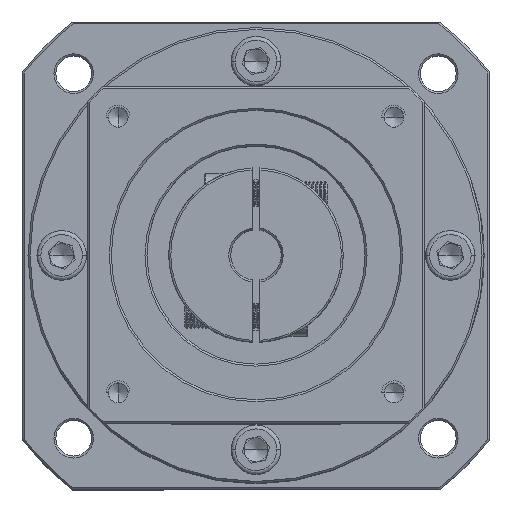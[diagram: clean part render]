
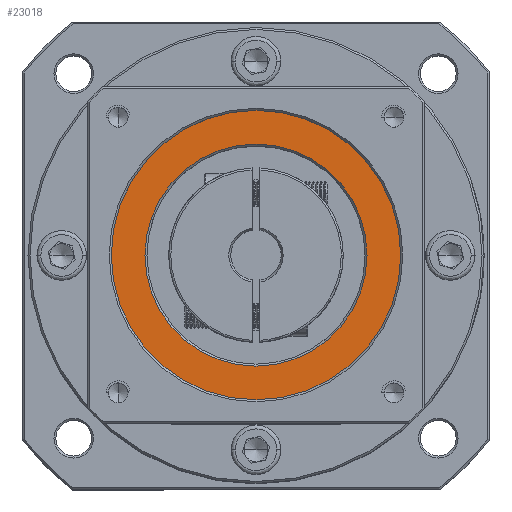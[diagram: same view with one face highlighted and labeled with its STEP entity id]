
A CAD part, top view. The second image highlights one B-rep face of the part: STEP entity #23018.
In plain terms, the highlighted planar face has unit normal (0, 0, 1).
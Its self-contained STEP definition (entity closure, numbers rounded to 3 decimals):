
#1533 = CARTESIAN_POINT ( 'NONE',  ( 45.074, -0.785, 102.5 ) ) ;
#10303 = DIRECTION ( 'NONE',  ( 1., 0., 0. ) ) ;
#11799 = ORIENTED_EDGE ( 'NONE', *, *, #47493, .T. ) ;
#11902 = CARTESIAN_POINT ( 'NONE',  ( 45.074, -0.785, 102.5 ) ) ;
#14275 = VERTEX_POINT ( 'NONE', #58830 ) ;
#16294 = ORIENTED_EDGE ( 'NONE', *, *, #31106, .T. ) ;
#17744 = DIRECTION ( 'NONE',  ( 0., 0., 1. ) ) ;
#20044 = AXIS2_PLACEMENT_3D ( 'NONE', #11902, #73139, #20720 ) ;
#20720 = DIRECTION ( 'NONE',  ( 1., 0., 0. ) ) ;
#23018 = ADVANCED_FACE ( 'NONE', ( #84423, #113195 ), #81623, .T. ) ;
#24253 = EDGE_LOOP ( 'NONE', ( #49301, #11799 ) ) ;
#25683 = CARTESIAN_POINT ( 'NONE',  ( 17.074, -0.785, 102.5 ) ) ;
#26321 = DIRECTION ( 'NONE',  ( 0., 0., -1. ) ) ;
#27660 = VERTEX_POINT ( 'NONE', #32078 ) ;
#31106 = EDGE_CURVE ( 'NONE', #27660, #45386, #80367, .T. ) ;
#32078 = CARTESIAN_POINT ( 'NONE',  ( 81.574, -0.785, 102.5 ) ) ;
#32741 = CARTESIAN_POINT ( 'NONE',  ( 8.574, -0.785, 102.5 ) ) ;
#38159 = DIRECTION ( 'NONE',  ( 0., 0., 1. ) ) ;
#45386 = VERTEX_POINT ( 'NONE', #32741 ) ;
#47493 = EDGE_CURVE ( 'NONE', #54776, #14275, #52344, .T. ) ;
#49301 = ORIENTED_EDGE ( 'NONE', *, *, #72335, .T. ) ;
#52344 = CIRCLE ( 'NONE', #56401, 28. ) ;
#54776 = VERTEX_POINT ( 'NONE', #25683 ) ;
#56401 = AXIS2_PLACEMENT_3D ( 'NONE', #1533, #62772, #10303 ) ;
#58692 = CIRCLE ( 'NONE', #86989, 36.5 ) ;
#58830 = CARTESIAN_POINT ( 'NONE',  ( 73.074, -0.785, 102.5 ) ) ;
#62772 = DIRECTION ( 'NONE',  ( 0., 0., -1. ) ) ;
#65806 = AXIS2_PLACEMENT_3D ( 'NONE', #70185, #17744, #79015 ) ;
#70185 = CARTESIAN_POINT ( 'NONE',  ( 45.074, -0.785, 102.5 ) ) ;
#72335 = EDGE_CURVE ( 'NONE', #14275, #54776, #109256, .T. ) ;
#73139 = DIRECTION ( 'NONE',  ( 0., 0., 1. ) ) ;
#73548 = EDGE_CURVE ( 'NONE', #45386, #27660, #58692, .T. ) ;
#77954 = EDGE_LOOP ( 'NONE', ( #16294, #102526 ) ) ;
#78775 = CARTESIAN_POINT ( 'NONE',  ( 45.074, -0.785, 102.5 ) ) ;
#79015 = DIRECTION ( 'NONE',  ( 1., 0., 0. ) ) ;
#80367 = CIRCLE ( 'NONE', #65806, 36.5 ) ;
#81623 = PLANE ( 'NONE',  #20044 ) ;
#84423 = FACE_OUTER_BOUND ( 'NONE', #77954, .T. ) ;
#84653 = AXIS2_PLACEMENT_3D ( 'NONE', #78775, #26321, #87622 ) ;
#86989 = AXIS2_PLACEMENT_3D ( 'NONE', #90677, #38159, #99500 ) ;
#87622 = DIRECTION ( 'NONE',  ( 1., 0., 0. ) ) ;
#90677 = CARTESIAN_POINT ( 'NONE',  ( 45.074, -0.785, 102.5 ) ) ;
#99500 = DIRECTION ( 'NONE',  ( 1., 0., 0. ) ) ;
#102526 = ORIENTED_EDGE ( 'NONE', *, *, #73548, .T. ) ;
#109256 = CIRCLE ( 'NONE', #84653, 28. ) ;
#113195 = FACE_BOUND ( 'NONE', #24253, .T. ) ;
